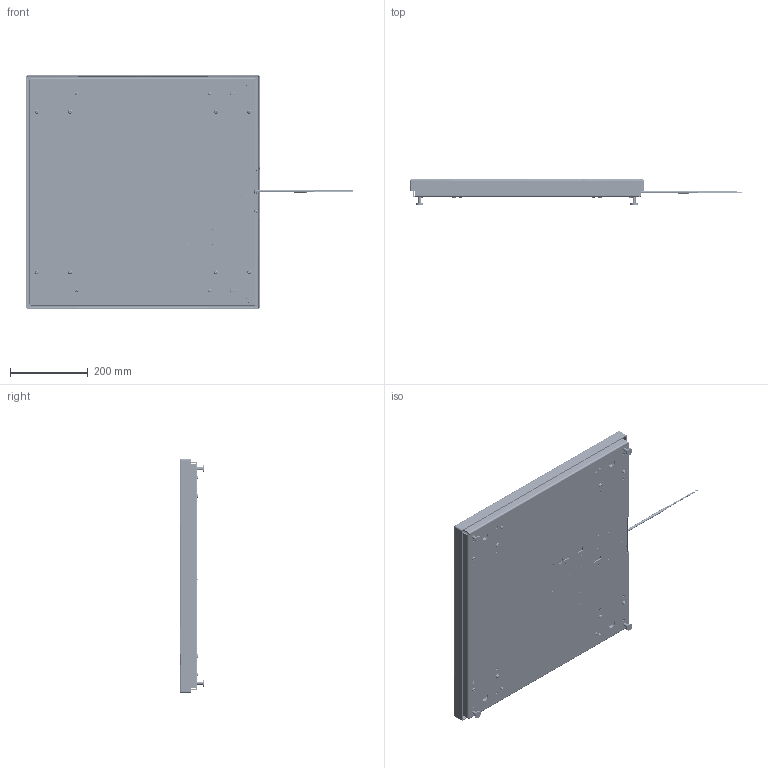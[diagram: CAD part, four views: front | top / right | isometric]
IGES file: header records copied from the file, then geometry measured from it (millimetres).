
Start section: SolidWorks IGES file using analytic representation for surfaces
Global section: file name: C:\0_Work\SolidWorks\~0_E-Scales\24x24\HI2424SBU-130.IGS; native system: SolidWorks 2017; preprocessor: SolidWorks 2017; author: vach01; date: 190813.152939; units: millimetre
Bounding box: 852.36 x 64.1 x 600 mm (x, y, z)
Surface area: 1863882.8 mm2 (no closed solid volume)
Topology: 0 solids, 0 shells, 9420 faces, 84082 edges, 84028 vertices
Faces by surface type: bspline 6944, revolution 2476
